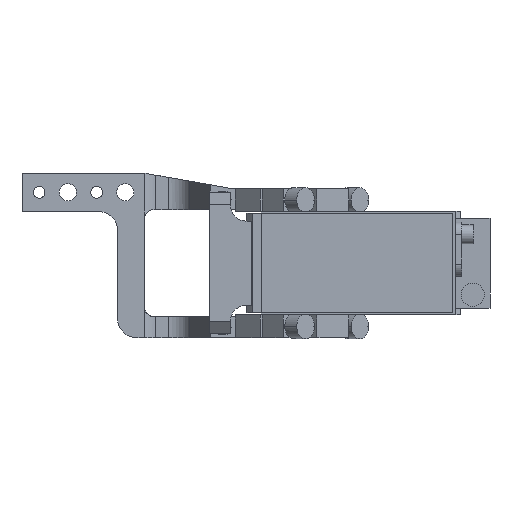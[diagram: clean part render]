
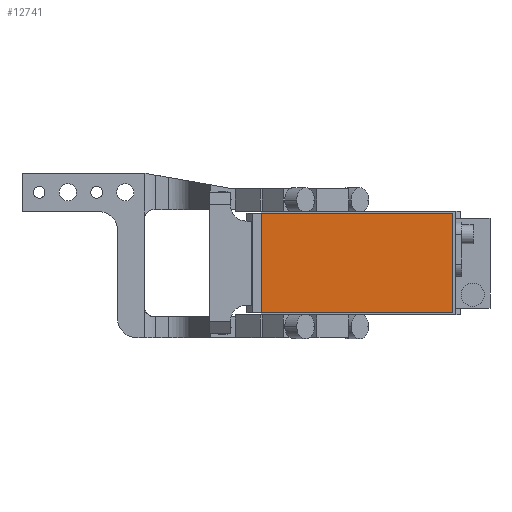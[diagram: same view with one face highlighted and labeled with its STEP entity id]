
A CAD part, front view. The second image highlights one B-rep face of the part: STEP entity #12741.
In plain terms, the highlighted planar face has unit normal (0, -1, 0).
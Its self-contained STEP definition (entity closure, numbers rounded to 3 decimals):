
#274 = CARTESIAN_POINT ( 'NONE',  ( -19., -286.5, 26. ) ) ;
#320 = DIRECTION ( 'NONE',  ( 0., 0., -1. ) ) ;
#349 = ORIENTED_EDGE ( 'NONE', *, *, #12344, .T. ) ;
#386 = LINE ( 'NONE', #8516, #2088 ) ;
#399 = CARTESIAN_POINT ( 'NONE',  ( 0., -286.5, 0. ) ) ;
#832 = DIRECTION ( 'NONE',  ( 0., 0., -1. ) ) ;
#1365 = VERTEX_POINT ( 'NONE', #6337 ) ;
#1465 = DIRECTION ( 'NONE',  ( 0., -1., 0. ) ) ;
#1548 = DIRECTION ( 'NONE',  ( -1., 0., 0. ) ) ;
#1814 = ORIENTED_EDGE ( 'NONE', *, *, #11699, .T. ) ;
#2088 = VECTOR ( 'NONE', #4877, 1000. ) ;
#2345 = CARTESIAN_POINT ( 'NONE',  ( 81., -286.5, -26. ) ) ;
#2550 = LINE ( 'NONE', #12832, #9962 ) ;
#2587 = ORIENTED_EDGE ( 'NONE', *, *, #14115, .T. ) ;
#2619 = FACE_OUTER_BOUND ( 'NONE', #9562, .T. ) ;
#3625 = VERTEX_POINT ( 'NONE', #274 ) ;
#4336 = LINE ( 'NONE', #11479, #11813 ) ;
#4610 = ORIENTED_EDGE ( 'NONE', *, *, #8326, .T. ) ;
#4850 = CARTESIAN_POINT ( 'NONE',  ( -19., -286.5, -26. ) ) ;
#4877 = DIRECTION ( 'NONE',  ( 1., 0., 0. ) ) ;
#5483 = AXIS2_PLACEMENT_3D ( 'NONE', #399, #1465, #320 ) ;
#6337 = CARTESIAN_POINT ( 'NONE',  ( 81., -286.5, 26. ) ) ;
#6579 = VERTEX_POINT ( 'NONE', #4850 ) ;
#8326 = EDGE_CURVE ( 'NONE', #3625, #6579, #4336, .T. ) ;
#8516 = CARTESIAN_POINT ( 'NONE',  ( -19., -286.5, -26. ) ) ;
#9562 = EDGE_LOOP ( 'NONE', ( #4610, #2587, #349, #1814 ) ) ;
#9962 = VECTOR ( 'NONE', #1548, 1000. ) ;
#11479 = CARTESIAN_POINT ( 'NONE',  ( -19., -286.5, 26. ) ) ;
#11542 = DIRECTION ( 'NONE',  ( 0., 0., 1. ) ) ;
#11699 = EDGE_CURVE ( 'NONE', #1365, #3625, #2550, .T. ) ;
#11813 = VECTOR ( 'NONE', #832, 1000. ) ;
#11883 = PLANE ( 'NONE',  #5483 ) ;
#12243 = VECTOR ( 'NONE', #11542, 1000. ) ;
#12344 = EDGE_CURVE ( 'NONE', #14605, #1365, #13688, .T. ) ;
#12741 = ADVANCED_FACE ( 'NONE', ( #2619 ), #11883, .T. ) ;
#12832 = CARTESIAN_POINT ( 'NONE',  ( -19., -286.5, 26. ) ) ;
#13688 = LINE ( 'NONE', #13765, #12243 ) ;
#13765 = CARTESIAN_POINT ( 'NONE',  ( 81., -286.5, 26. ) ) ;
#14115 = EDGE_CURVE ( 'NONE', #6579, #14605, #386, .T. ) ;
#14605 = VERTEX_POINT ( 'NONE', #2345 ) ;
